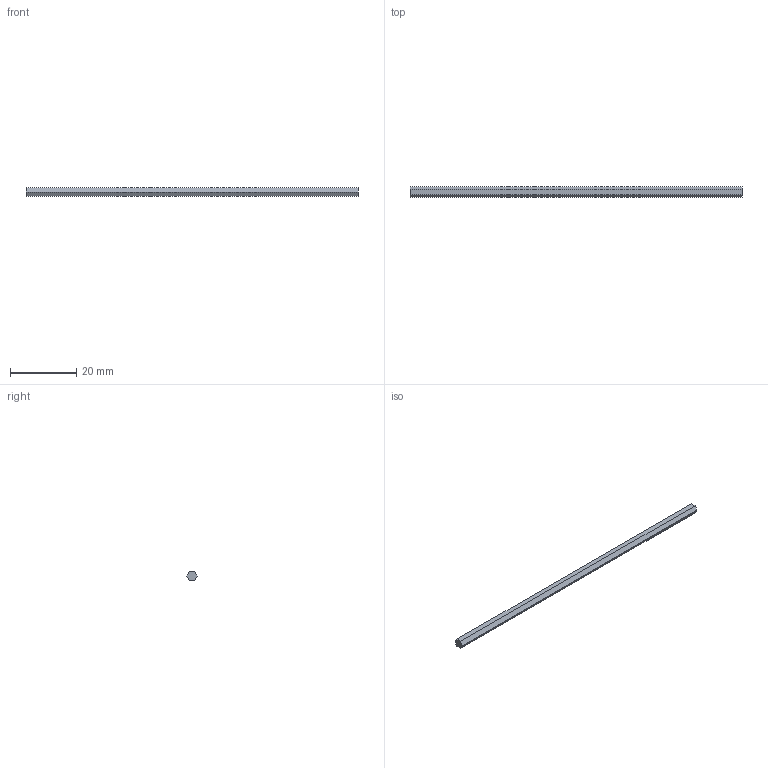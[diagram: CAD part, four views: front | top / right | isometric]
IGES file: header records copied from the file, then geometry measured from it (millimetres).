
Start section: SolidWorks IGES file using analytic representation for surfaces
Global section: file name: C:\Users\AndreBernot\Downloads\K-RACER-L_3D_SW\K-RACER-L_3D_SW\TAM-70167_axe100.IGS; native system: SolidWorks 2015; preprocessor: SolidWorks 2015; author: AndreBernot; date: 170922.151719; units: millimetre
Bounding box: 100 x 3.04 x 2.63 mm (x, y, z)
Surface area: 923 mm2 (no closed solid volume)
Topology: 0 solids, 0 shells, 8 faces, 36 edges, 36 vertices
Faces by surface type: bspline 8
